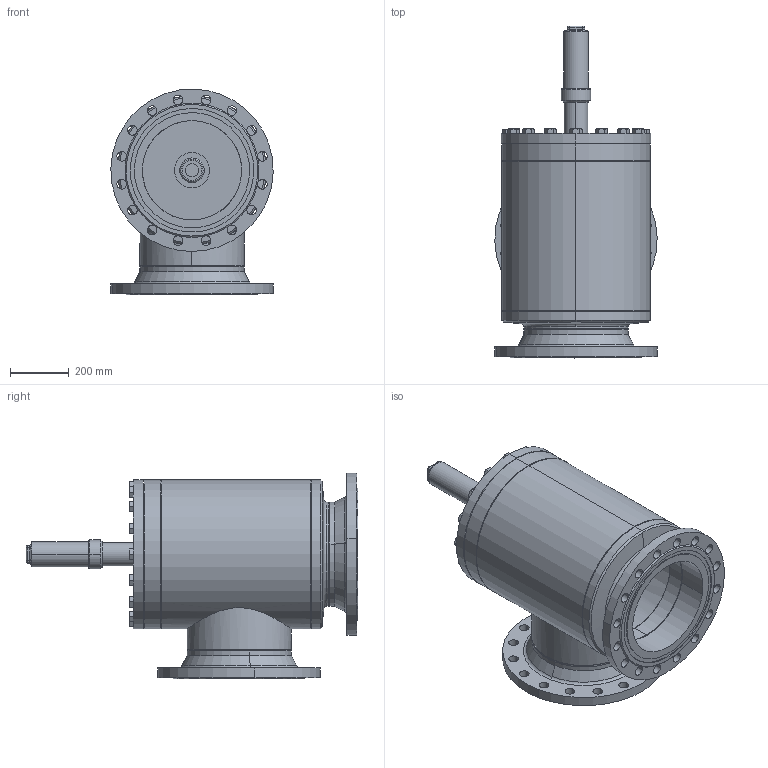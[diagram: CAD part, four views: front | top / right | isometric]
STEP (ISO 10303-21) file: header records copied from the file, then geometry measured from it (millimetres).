
FILE_DESCRIPTION (( 'STEP AP214' ), '1' );
FILE_NAME ('AVR26420C26-DN350_DIN-FL-N_PS25.STEP', '2006-04-28T08:43:18', ( 'Herr Grams' ), ( 'AWP GmbH' ), 'SwSTEP 2.0', 'SolidWorks 2002296', '' );
FILE_SCHEMA (( 'AUTOMOTIVE_DESIGN' ));
Length unit declared in the file: millimetre
Products named in the file (18): Gehäuse26300-DN350_Standard; Boden26300-DN350_Standard; Flansch-DIN2634-Nut_PS25_DIN-Flansch-DN350_PS25-Nut; Rohrstutzen-A26300-DN350_R1_Standard; bead-DN350-2_Standard; bead-DN350-1_Standard; bead-DN350-3_Standard; bead-DN350-4_Standard; AVR26300B26_Deck+Schr-DN350_Standard; Deckel-kpl26300-DN350_Standard; Buchse1 f Deckel26300-DN350_Standard; Scheibe f Deckel26300-DN350_Standard; bead-deck263-350_Standard; Sechskantschraube-DIN933_M24x 65; Kappe16402_DN200-350_Standard; AVR26420C26-DN350_DIN-FL-N_PS25; Gehäuse-kpl26420-DN350_DIN_PS25_Standard; Kopfstück26300-DN350_Standard
Assembly tree (33 placements, depth 4):
  AVR26420C26-DN350_DIN-FL-N_PS25
    Gehäuse-kpl26420-DN350_DIN_PS25_Standard
      Boden26300-DN350_Standard
      bead-DN350-1_Standard
      Gehäuse26300-DN350_Standard
      bead-DN350-3_Standard
      Rohrstutzen-A26300-DN350_R1_Standard
      bead-DN350-4_Standard
      Kopfstück26300-DN350_Standard
      Flansch-DIN2634-Nut_PS25_DIN-Flansch-DN350_PS25-Nut  x2
      bead-DN350-2_Standard
    AVR26300B26_Deck+Schr-DN350_Standard
      Sechskantschraube-DIN933_M24x 65  x16
      Deckel-kpl26300-DN350_Standard
        Buchse1 f Deckel26300-DN350_Standard
        bead-deck263-350_Standard
        Scheibe f Deckel26300-DN350_Standard
    Kappe16402_DN200-350_Standard
Bounding box: 554.87 x 1134 x 703.43 mm (x, y, z)
Volume: 49539911.4 mm3; surface area: 4894313.4 mm2
Topology: 30 solids, 30 shells, 717 faces, 1676 edges, 1020 vertices
Faces by surface type: cone 256, cylinder 219, plane 198, bspline 28, torus 16
Entity records: 22753 total; most frequent: CARTESIAN_POINT 14885, DIRECTION 1552, ORIENTED_EDGE 1412, EDGE_CURVE 706, AXIS2_PLACEMENT_3D 679, VERTEX_POINT 446, CIRCLE 382, EDGE_LOOP 374
